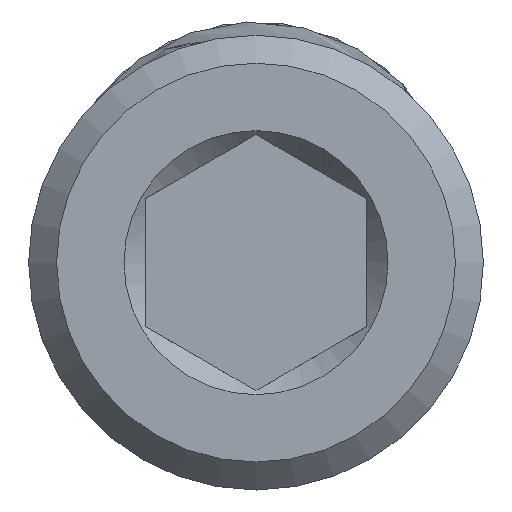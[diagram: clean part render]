
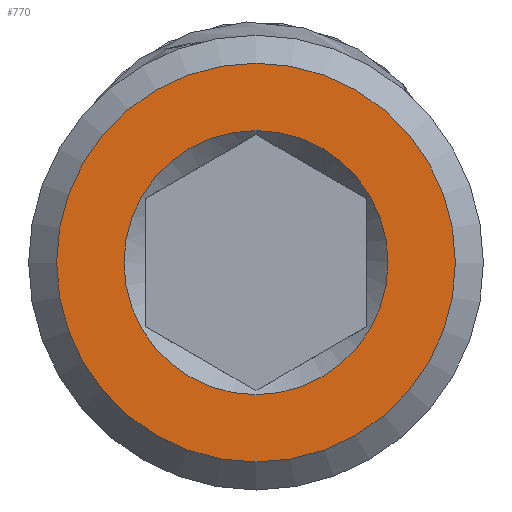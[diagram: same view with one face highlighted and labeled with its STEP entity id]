
A CAD part, front view. The second image highlights one B-rep face of the part: STEP entity #770.
In plain terms, the highlighted planar face has unit normal (0, -1, 0).
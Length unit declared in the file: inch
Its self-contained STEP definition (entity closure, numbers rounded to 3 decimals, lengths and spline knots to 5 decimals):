
#17=FACE_BOUND('',#168,.T.);
#78=CIRCLE('',#854,0.149);
#79=CIRCLE('',#856,0.225);
#122=FACE_OUTER_BOUND('',#167,.T.);
#167=EDGE_LOOP('',(#666));
#168=EDGE_LOOP('',(#667));
#356=VERTEX_POINT('',#1654);
#357=VERTEX_POINT('',#1658);
#464=EDGE_CURVE('',#356,#356,#78,.T.);
#465=EDGE_CURVE('',#357,#357,#79,.T.);
#666=ORIENTED_EDGE('',*,*,#465,.F.);
#667=ORIENTED_EDGE('',*,*,#464,.F.);
#732=PLANE('',#855);
#770=ADVANCED_FACE('',(#122,#17),#732,.T.);
#854=AXIS2_PLACEMENT_3D('',#1656,#1029,#1030);
#855=AXIS2_PLACEMENT_3D('',#1657,#1031,#1032);
#856=AXIS2_PLACEMENT_3D('',#1659,#1033,#1034);
#1029=DIRECTION('center_axis',(0.,-1.,0.));
#1030=DIRECTION('ref_axis',(0.,0.,1.));
#1031=DIRECTION('center_axis',(0.,-1.,0.));
#1032=DIRECTION('ref_axis',(0.,0.,-1.));
#1033=DIRECTION('center_axis',(0.,1.,0.));
#1034=DIRECTION('ref_axis',(0.,0.,1.));
#1654=CARTESIAN_POINT('',(0.,0.,-0.149));
#1656=CARTESIAN_POINT('Origin',(0.,0.,0.));
#1657=CARTESIAN_POINT('Origin',(0.,0.,-0.124));
#1658=CARTESIAN_POINT('',(0.,0.,-0.225));
#1659=CARTESIAN_POINT('Origin',(0.,0.,0.));
